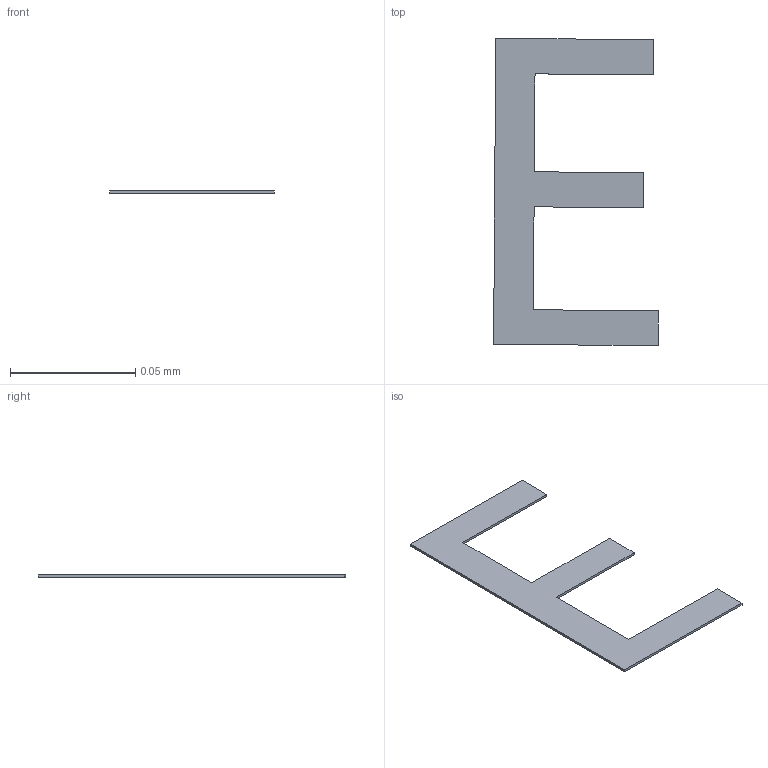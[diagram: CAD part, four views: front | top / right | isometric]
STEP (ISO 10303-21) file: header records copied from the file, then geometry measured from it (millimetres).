
FILE_DESCRIPTION(/* description */ ('STEP AP242 Edition 2','CAx-IF Rec.Pracs.---Representation and Presentation of Product Manufacturing Information (PMI)---4.0---2014-10-13','CAx-IF Rec.Pracs.---3D Tessellated Geometry---0.4---2014-09-14','2;1','CAx-IF Rec.Pracs.---User Defined Attributes---1.5---2016-08-15'),/* implementation_level */ '2;1');
FILE_NAME(/* name */ 'Assembly 1 - SW-SMD_L3.9-W3.0-P4.45~SW-SMD_L3.9-W2.9-H2.0-LS4.8~nxQB (8)',/* time_stamp */ '2026-04-02T09:55:26Z',/* author */ (''),/* organization */ (''),/* preprocessor_version */ 'ST-DEVELOPER v20',/* originating_system */ 'ONSHAPE BY PTC INC, 1.212',/* authorisation */ ' ');
FILE_SCHEMA (('AP242_MANAGED_MODEL_BASED_3D_ENGINEERING_MIM_LF { 1 0 10303 442 3 1 4 }'));
Length unit declared in the file: metre
Products named in the file (1): SW-SMD_L3.9-W3.0-P4.45~SW-SMD_L3.9-W2.9-H2.0-LS4.8~nxQB
Bounding box: 0.07 x 0.12 x 0 mm (x, y, z)
Volume: 0 mm3; surface area: 0 mm2
Topology: 1 solids, 1 shells, 14 faces, 36 edges, 24 vertices
Faces by surface type: plane 14
Entity records: 541 total; most frequent: CARTESIAN_POINT 75, ORIENTED_EDGE 72, DIRECTION 66, EDGE_CURVE 36, LINE 36, VECTOR 36, VERTEX_POINT 24, PRESENTATION_STYLE_ASSIGNMENT 15
